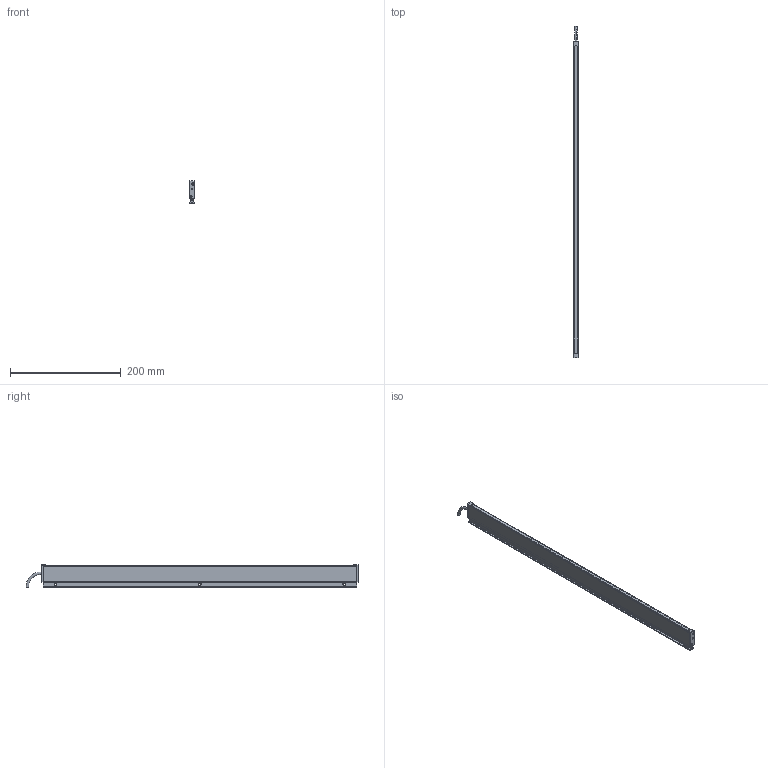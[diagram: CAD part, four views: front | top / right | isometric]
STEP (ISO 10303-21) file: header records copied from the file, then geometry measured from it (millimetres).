
FILE_DESCRIPTION (( 'STEP AP214' ), '1' );
FILE_NAME ('ILG-L-K1-0570mm.STEP', '2017-07-11T07:02:15', ( '' ), ( '' ), 'SwSTEP 2.0', 'SolidWorks 2016', '' );
FILE_SCHEMA (( 'AUTOMOTIVE_DESIGN' ));
Length unit declared in the file: millimetre
Products named in the file (1): ILG-L-K1-0570mm
Bounding box: 9 x 598.25 x 40.71 mm (x, y, z)
Volume: 82543 mm3; surface area: 114231 mm2
Topology: 9 solids, 9 shells, 430 faces, 1108 edges, 698 vertices
Faces by surface type: plane 205, cylinder 151, cone 64, torus 10
Entity records: 17910 total; most frequent: CARTESIAN_POINT 2385, DIRECTION 2328, ORIENTED_EDGE 2200, EDGE_CURVE 1100, AXIS2_PLACEMENT_3D 849, VERTEX_POINT 698, LINE 630, VECTOR 630
